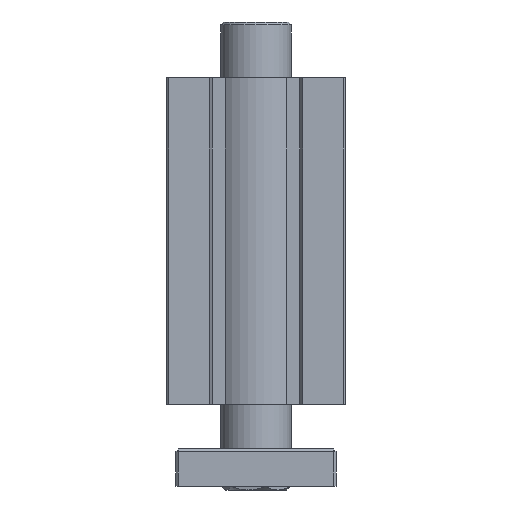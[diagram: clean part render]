
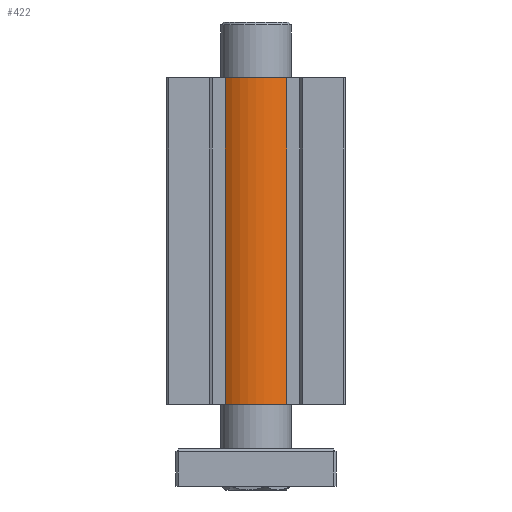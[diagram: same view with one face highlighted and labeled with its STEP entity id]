
A CAD part, front view. The second image highlights one B-rep face of the part: STEP entity #422.
In plain terms, the highlighted cylindrical face has radius 13.505 mm (diameter 27.011 mm), a partial arc.
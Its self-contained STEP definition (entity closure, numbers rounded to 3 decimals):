
#422 = ADVANCED_FACE ( 'NONE', ( #3103 ), #2377, .T. ) ;
#599 = DIRECTION ( 'NONE',  ( 0., 0., 1. ) ) ;
#1078 = DIRECTION ( 'NONE',  ( 0., 0., -1. ) ) ;
#1572 = ORIENTED_EDGE ( 'NONE', *, *, #6526, .F. ) ;
#1766 = CARTESIAN_POINT ( 'NONE',  ( -8.25, -53., 0. ) ) ;
#1841 = CARTESIAN_POINT ( 'NONE',  ( 0., -42.307, 87.5 ) ) ;
#2377 = CYLINDRICAL_SURFACE ( 'NONE', #4142, 13.505 ) ;
#3103 = FACE_OUTER_BOUND ( 'NONE', #4052, .T. ) ;
#3120 = CARTESIAN_POINT ( 'NONE',  ( 0., -42.307, 0. ) ) ;
#3233 = CARTESIAN_POINT ( 'NONE',  ( 8.25, -53., 87.5 ) ) ;
#3334 = AXIS2_PLACEMENT_3D ( 'NONE', #5119, #599, #5864 ) ;
#3737 = VECTOR ( 'NONE', #7767, 1000. ) ;
#3871 = DIRECTION ( 'NONE',  ( 1., 0., 0. ) ) ;
#4052 = EDGE_LOOP ( 'NONE', ( #6056, #9562, #1572, #9171 ) ) ;
#4142 = AXIS2_PLACEMENT_3D ( 'NONE', #1841, #1078, #9390 ) ;
#5119 = CARTESIAN_POINT ( 'NONE',  ( 0., -42.307, 87.5 ) ) ;
#5454 = VERTEX_POINT ( 'NONE', #7091 ) ;
#5659 = DIRECTION ( 'NONE',  ( 0., 0., -1. ) ) ;
#5680 = LINE ( 'NONE', #7963, #9496 ) ;
#5864 = DIRECTION ( 'NONE',  ( 1., 0., 0. ) ) ;
#5878 = VERTEX_POINT ( 'NONE', #6619 ) ;
#5943 = CIRCLE ( 'NONE', #6120, 13.505 ) ;
#6056 = ORIENTED_EDGE ( 'NONE', *, *, #7589, .T. ) ;
#6120 = AXIS2_PLACEMENT_3D ( 'NONE', #3120, #8390, #3871 ) ;
#6197 = VERTEX_POINT ( 'NONE', #1766 ) ;
#6526 = EDGE_CURVE ( 'NONE', #5878, #7379, #8474, .T. ) ;
#6619 = CARTESIAN_POINT ( 'NONE',  ( -8.25, -53., 87.5 ) ) ;
#7091 = CARTESIAN_POINT ( 'NONE',  ( 8.25, -53., 0. ) ) ;
#7142 = EDGE_CURVE ( 'NONE', #7379, #5454, #7743, .T. ) ;
#7379 = VERTEX_POINT ( 'NONE', #8881 ) ;
#7589 = EDGE_CURVE ( 'NONE', #6197, #5454, #5943, .T. ) ;
#7743 = LINE ( 'NONE', #3233, #3737 ) ;
#7767 = DIRECTION ( 'NONE',  ( 0., 0., -1. ) ) ;
#7963 = CARTESIAN_POINT ( 'NONE',  ( -8.25, -53., 87.5 ) ) ;
#8390 = DIRECTION ( 'NONE',  ( 0., 0., 1. ) ) ;
#8474 = CIRCLE ( 'NONE', #3334, 13.505 ) ;
#8881 = CARTESIAN_POINT ( 'NONE',  ( 8.25, -53., 87.5 ) ) ;
#9084 = EDGE_CURVE ( 'NONE', #5878, #6197, #5680, .T. ) ;
#9171 = ORIENTED_EDGE ( 'NONE', *, *, #9084, .T. ) ;
#9390 = DIRECTION ( 'NONE',  ( -1., 0., 0. ) ) ;
#9496 = VECTOR ( 'NONE', #5659, 1000. ) ;
#9562 = ORIENTED_EDGE ( 'NONE', *, *, #7142, .F. ) ;
